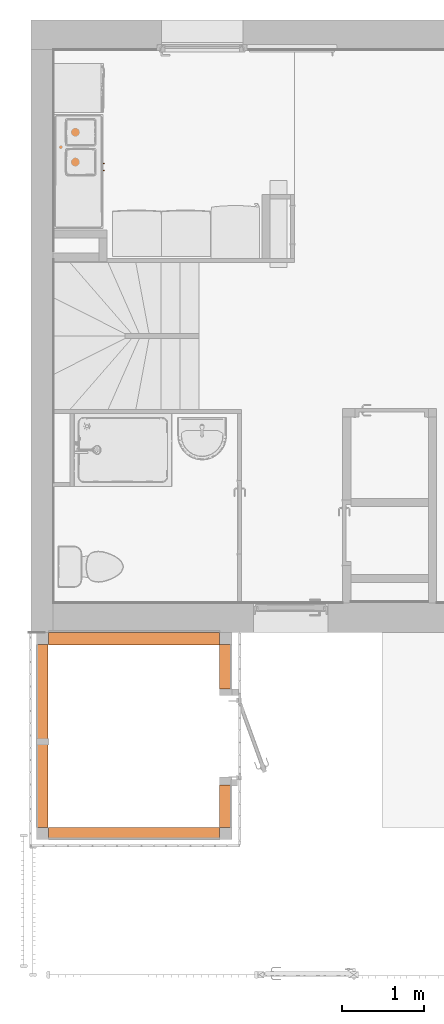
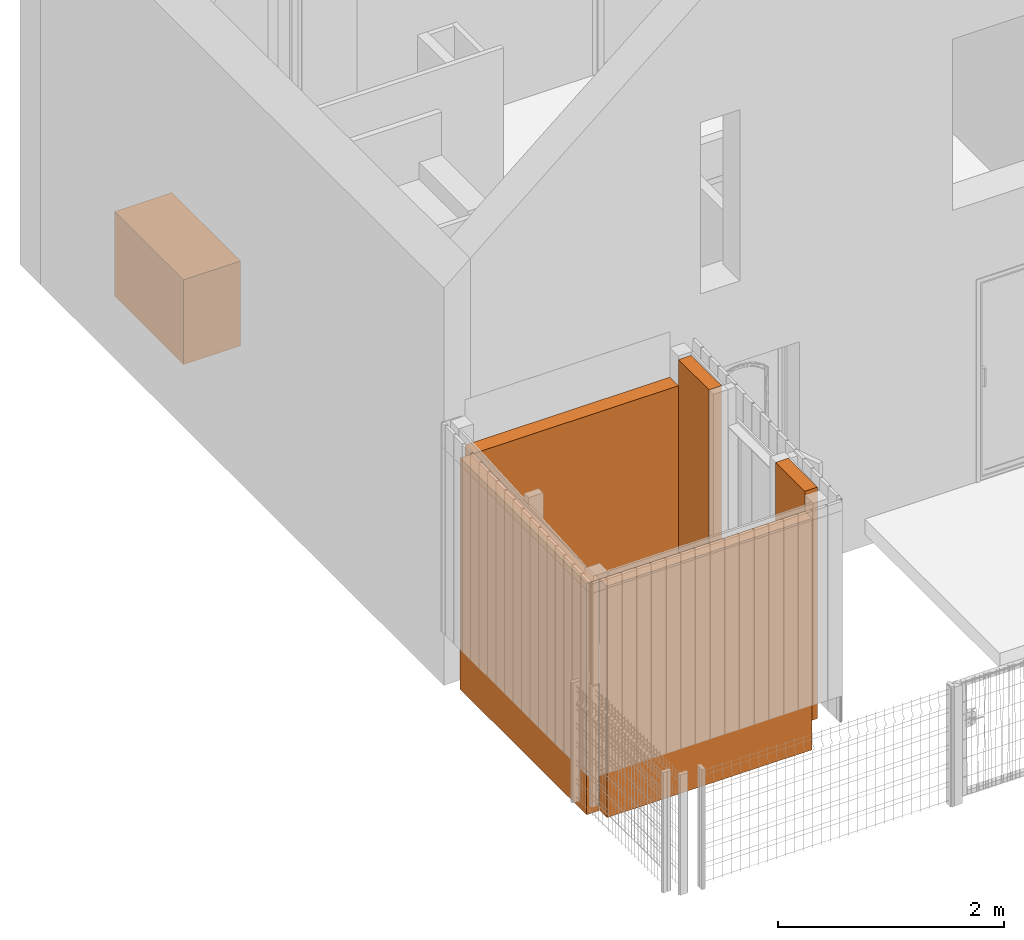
# One storey, part 80 of 81: 6 proxies.
"""IFC2X3 building model written with IfcOpenShell, lengths in metres."""

from ifc_helpers import new_model, entity, si_unit, converted_unit, derived_unit, direction, frame, frame_2d, origin, origin_2d_with_axis, place, context, subcontext, project, spatial, polyline, rectangle, outline, extrude, source, transform, mapped, material, material_list, type_object, type_shapes, element, save


model = new_model("IFC2X3")

# Units and contexts
model_context = context("Model", 3, precision=1e-05, world=origin(), true_north=direction((6.12303176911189e-17, 1.0)))
body_context = subcontext(model_context, "Body", "Model", "MODEL_VIEW")
ifc_project = project(units=[si_unit("LENGTHUNIT", "METRE"), si_unit("AREAUNIT", "SQUARE_METRE"), si_unit("VOLUMEUNIT", "CUBIC_METRE"), converted_unit("PLANEANGLEUNIT", "DEGREE", entity("IfcRatioMeasure", 0.0174532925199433), si_unit("PLANEANGLEUNIT", "RADIAN"), dimensions=[0, 0, 0, 0, 0, 0, 0]), si_unit("MASSUNIT", "GRAM", prefix="KILO"), derived_unit("MASSDENSITYUNIT", [(si_unit("MASSUNIT", "GRAM", prefix="KILO"), 1), (si_unit("LENGTHUNIT", "METRE"), -3)]), derived_unit("MOMENTOFINERTIAUNIT", [(si_unit("LENGTHUNIT", "METRE"), 4)]), si_unit("TIMEUNIT", "SECOND"), si_unit("FREQUENCYUNIT", "HERTZ"), si_unit("THERMODYNAMICTEMPERATUREUNIT", "DEGREE_CELSIUS"), derived_unit("THERMALTRANSMITTANCEUNIT", [(si_unit("MASSUNIT", "GRAM", prefix="KILO"), 1), (si_unit("THERMODYNAMICTEMPERATUREUNIT", "KELVIN"), -1), (si_unit("TIMEUNIT", "SECOND"), -3)]), derived_unit("VOLUMETRICFLOWRATEUNIT", [(si_unit("LENGTHUNIT", "METRE"), 3), (si_unit("TIMEUNIT", "SECOND"), -1)]), si_unit("ELECTRICCURRENTUNIT", "AMPERE"), si_unit("ELECTRICVOLTAGEUNIT", "VOLT"), si_unit("POWERUNIT", "WATT"), si_unit("FORCEUNIT", "NEWTON", prefix="KILO"), si_unit("ILLUMINANCEUNIT", "LUX"), si_unit("LUMINOUSFLUXUNIT", "LUMEN"), si_unit("LUMINOUSINTENSITYUNIT", "CANDELA"), derived_unit("USERDEFINED", [(si_unit("MASSUNIT", "GRAM", prefix="KILO"), -1), (si_unit("LENGTHUNIT", "METRE"), -2), (si_unit("TIMEUNIT", "SECOND"), 3), (si_unit("LUMINOUSFLUXUNIT", "LUMEN"), 1)]), derived_unit("LINEARVELOCITYUNIT", [(si_unit("LENGTHUNIT", "METRE"), 1), (si_unit("TIMEUNIT", "SECOND"), -1)]), si_unit("PRESSUREUNIT", "PASCAL"), derived_unit("USERDEFINED", [(si_unit("LENGTHUNIT", "METRE"), -2), (si_unit("MASSUNIT", "GRAM", prefix="KILO"), 1), (si_unit("TIMEUNIT", "SECOND"), -2)]), derived_unit("LINEARFORCEUNIT", [(si_unit("MASSUNIT", "GRAM", prefix="KILO"), 1), (si_unit("LENGTHUNIT", "METRE"), 1), (si_unit("TIMEUNIT", "SECOND"), -2), (si_unit("LENGTHUNIT", "METRE"), -1)]), derived_unit("PLANARFORCEUNIT", [(si_unit("MASSUNIT", "GRAM", prefix="KILO"), 1), (si_unit("LENGTHUNIT", "METRE"), 1), (si_unit("TIMEUNIT", "SECOND"), -2), (si_unit("LENGTHUNIT", "METRE"), -2)])], contexts=[model_context])

# Site, building, storey
site_placement = place(None, origin())
site = spatial("IfcSite", under=ifc_project, at=site_placement, Name="Surface", CompositionType="ELEMENT")
building_placement = place(site_placement, origin())
building = spatial("IfcBuilding", under=site, at=building_placement, CompositionType="ELEMENT")
storey_placement = place(building_placement, origin())
storey = spatial("IfcBuildingStorey", under=building, at=storey_placement, Name="01 RDC", CompositionType="ELEMENT", Elevation=-1.94916083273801e-14)

# Proxies
ifc_material_1 = material(Name="CabinetFinish")
ifc_material_2 = material(Name="Default metal")
ifc_material_3 = material(Name="EquipSpace")
ifc_material_list = material_list([ifc_material_1, ifc_material_2, ifc_material_3])
building_element_proxy_type_1 = type_object("IfcBuildingElementProxyType", Name="Meuble évier:Meuble évier", PredefinedType="NOTDEFINED", material=ifc_material_1)
shared_shape_1 = source(origin(), body_context, "Body", "SweptSolid", [
    extrude(rectangle(XDim=0.01905, YDim=1.2192, at=frame_2d((1.64798730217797e-17, 0.0), x_axis=(1.0, 0.0))), frame((0.0, -0.282575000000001, 0.673100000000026), z_axis=(0.0, 0.0, 1.0), x_axis=(0.0, 1.0, 0.0)), (0.0, 0.0, 1.0), 0.152400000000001),
    extrude(rectangle(XDim=0.0190499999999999, YDim=0.565149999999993, at=frame_2d((0.0, -2.77555756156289e-17), x_axis=(1.0, 0.0))), frame((-0.600075, 0.00952500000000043, 0.101600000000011)), (0.0, 0.0, 1.0), 0.723900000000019),
    extrude(rectangle(XDim=0.01905, YDim=0.565149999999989, at=frame_2d((3.38271077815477e-17, -2.77555756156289e-17), x_axis=(1.0, 0.0))), frame((0.600075, 0.00952499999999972, 0.101600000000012)), (0.0, 0.0, 1.0), 0.723900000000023),
    extrude(rectangle(XDim=0.01905, YDim=1.2192, at=frame_2d((-3.38271077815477e-17, 0.0), x_axis=(1.0, 0.0))), frame((0.0, -0.244474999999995, 0.0), z_axis=(0.0, 0.0, 1.0), x_axis=(0.0, 1.0, 0.0)), (0.0, 0.0, 1.0), 0.101600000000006),
    extrude(rectangle(XDim=0.0190500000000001, YDim=0.507999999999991, at=frame_2d((0.0, 2.77555756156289e-17), x_axis=(1.0, 0.0))), frame((-0.600075, 0.0190500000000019, 0.0)), (0.0, 0.0, 1.0), 0.1016),
    extrude(rectangle(XDim=0.01905, YDim=0.507999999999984, at=frame_2d((-6.76542155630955e-17, 0.0), x_axis=(1.0, 0.0))), frame((0.600075, 0.0190500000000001, 0.0)), (0.0, 0.0, 1.0), 0.101600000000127),
    extrude(rectangle(XDim=0.01905, YDim=1.2192, at=origin_2d_with_axis()), frame((0.0, 0.282574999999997, 0.0), z_axis=(0.0, 0.0, 1.0), x_axis=(0.0, 1.0, 0.0)), (0.0, 0.0, 1.0), 0.101600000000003),
    extrude(rectangle(XDim=1.18110000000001, YDim=0.546100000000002, at=frame_2d((1.66533453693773e-16, -6.38378239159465e-16), x_axis=(1.0, 0.0))), frame((0.0, 0.0, 0.101600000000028), z_axis=(0.0, 0.0, 1.0), x_axis=(-1.0, 0.0, 0.0)), (0.0, 0.0, 1.0), 0.0191166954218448),
    extrude(rectangle(XDim=0.01905, YDim=1.1811, at=origin_2d_with_axis()), frame((0.0, 0.282574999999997, 0.101600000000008), z_axis=(0.0, 0.0, 1.0), x_axis=(0.0, 1.0, 0.0)), (0.0, 0.0, 1.0), 0.704850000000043),
    extrude(outline(polyline([(-0.0222210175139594, -0.0476250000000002), (0.0158789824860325, -0.0476250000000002), (0.0158789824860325, -0.0349409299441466), (-0.0095369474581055, -0.0349409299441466), (-0.0095369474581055, 0.0349409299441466), (0.0158789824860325, 0.0349409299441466), (0.0158789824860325, 0.0476250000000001), (-0.0222210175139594, 0.0476250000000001), (-0.0222210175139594, -0.0476250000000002)])), frame((0.038099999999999, -0.307978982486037, 0.566221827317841), z_axis=(1.0, 0.0, 0.0), x_axis=(0.0, 1.0, 0.0)), (0.0, 0.0, 1.0), 0.0127),
    extrude(outline(polyline([(-0.0222210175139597, -0.0476250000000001), (0.0158789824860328, -0.0476250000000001), (0.0158789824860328, -0.0349409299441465), (-0.00953694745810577, -0.0349409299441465), (-0.00953694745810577, 0.0349409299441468), (0.0158789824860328, 0.0349409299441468), (0.0158789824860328, 0.0476250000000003), (-0.0222210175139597, 0.0476250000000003), (-0.0222210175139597, -0.0476250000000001)])), frame((-0.050799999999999, -0.307978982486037, 0.566221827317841), z_axis=(1.0, 0.0, 0.0), x_axis=(0.0, 1.0, 0.0)), (0.0, 0.0, 1.0), 0.0127),
    extrude(rectangle(XDim=0.5842, YDim=1.2192, at=frame_2d((3.60822483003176e-16, 0.12192), x_axis=(1.0, 0.0))), frame((-0.12192, 0.0, 0.0), z_axis=(0.0, 0.0, 1.0), x_axis=(0.0, -1.0, 0.0)), (0.0, 0.0, 1.0), 0.91439999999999),
    extrude(rectangle(XDim=1.016, YDim=0.420049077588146, at=origin_2d_with_axis()), frame((0.0, 0.0131745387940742, 0.80645), z_axis=(0.0, 0.0, 1.0), x_axis=(-1.0, 0.0, 0.0)), (0.0, 0.0, 1.0), 0.0190499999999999),
    extrude(rectangle(XDim=0.01905, YDim=0.609600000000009, at=frame_2d((1.64798730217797e-17, 0.0), x_axis=(1.0, 0.0))), frame((-0.304799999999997, -0.282575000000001, 0.101600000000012), z_axis=(0.0, 0.0, 1.0), x_axis=(0.0, 1.0, 0.0)), (0.0, 0.0, 1.0), 0.565150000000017),
    extrude(rectangle(XDim=0.01905, YDim=0.609600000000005, at=frame_2d((1.73472347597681e-17, -2.77555756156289e-17), x_axis=(1.0, 0.0))), frame((0.304799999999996, -0.282575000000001, 0.101600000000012), z_axis=(0.0, 0.0, 1.0), x_axis=(0.0, 1.0, 0.0)), (0.0, 0.0, 1.0), 0.565150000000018),
])
type_shapes(building_element_proxy_type_1, [shared_shape_1])
proxy_1_placement = place(storey_placement, frame((6.03866158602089, 2.00403904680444, -0.01), z_axis=(0.0, 0.0, 1.0), x_axis=(0.0, 1.0, 0.0)))
element("IfcBuildingElementProxy", 1, at=proxy_1_placement, inside=storey, type_object=building_element_proxy_type_1, material=ifc_material_list, Name="Meuble évier:Meuble évier", ObjectType="Meuble évier:Meuble évier", context=body_context, shape_type="MappedRepresentation", body=[
    mapped(shared_shape_1, transform((0.0, 0.0, 0.0), scale=1.0)),
])
ifc_material_4 = material(Name="Bois - Swiss Krono - OSB 3 - Panneau Anti-Termites 2500x1250x13mm")
building_element_proxy_type_2 = type_object("IfcBuildingElementProxyType", Name="Tiles_Swiss Krono_Placeholder:Tiles_Swiss Krono_Placeholder", PredefinedType="NOTDEFINED", material=ifc_material_4)
shared_shape_2 = source(origin(), body_context, "Body", "SweptSolid", [
    extrude(rectangle(XDim=2.5, YDim=2.235, at=origin_2d_with_axis()), frame((0.0, 0.0, 0.0), z_axis=(0.0, 0.0, 1.0), x_axis=(0.0, -1.0, 0.0)), (0.0, 0.0, 1.0), 0.130000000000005),
])
type_shapes(building_element_proxy_type_2, [shared_shape_2])
proxy_2_placement = place(storey_placement, frame((5.54656158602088, -4.96346095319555, 0.980493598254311), z_axis=(1.0, 0.0, 0.0), x_axis=(0.0, -1.0, 0.0)))
element("IfcBuildingElementProxy", 2, at=proxy_2_placement, inside=storey, type_object=building_element_proxy_type_2, material=ifc_material_4, Name="Tiles_Swiss Krono_Placeholder:Tiles_Swiss Krono_Placeholder", ObjectType="Tiles_Swiss Krono_Placeholder:Tiles_Swiss Krono_Placeholder", context=body_context, shape_type="MappedRepresentation", body=[
    mapped(shared_shape_2, transform((0.0, 0.0, 0.0), scale=1.0)),
])
building_element_proxy_type_3 = type_object("IfcBuildingElementProxyType", Name="Tiles_Swiss Krono_Placeholder:Tiles_Swiss Krono_Placeholder", PredefinedType="NOTDEFINED", material=ifc_material_4)
shared_shape_3 = source(origin(), body_context, "Body", "SweptSolid", [
    extrude(rectangle(XDim=2.5, YDim=0.539799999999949, at=origin_2d_with_axis()), frame((0.0, 0.0, 0.0), z_axis=(0.0, 0.0, 1.0), x_axis=(0.0, -1.0, 0.0)), (0.0, 0.0, 1.0), 0.129999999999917),
])
type_shapes(building_element_proxy_type_3, [shared_shape_3])
proxy_3_placement = place(storey_placement, frame((7.77656158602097, -4.11586095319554, 1.26139477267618), z_axis=(1.0, 0.0, 0.0), x_axis=(0.0, -1.0, 0.0)))
element("IfcBuildingElementProxy", 3, at=proxy_3_placement, inside=storey, type_object=building_element_proxy_type_3, material=ifc_material_4, Name="Tiles_Swiss Krono_Placeholder:Tiles_Swiss Krono_Placeholder", ObjectType="Tiles_Swiss Krono_Placeholder:Tiles_Swiss Krono_Placeholder", context=body_context, shape_type="MappedRepresentation", body=[
    mapped(shared_shape_3, transform((0.0, 0.0, 0.0), scale=1.0)),
])
building_element_proxy_type_4 = type_object("IfcBuildingElementProxyType", Name="Tiles_Swiss Krono_Placeholder:Tiles_Swiss Krono_Placeholder", PredefinedType="NOTDEFINED", material=ifc_material_4)
shared_shape_4 = source(origin(), body_context, "Body", "SweptSolid", [
    extrude(rectangle(XDim=2.5, YDim=0.129219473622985, at=origin_2d_with_axis()), frame((0.0, 0.0, 0.0), z_axis=(0.0, 0.0, 1.0), x_axis=(0.0, -1.0, 0.0)), (0.0, 0.0, 1.0), 2.095),
])
type_shapes(building_element_proxy_type_4, [shared_shape_4])
proxy_4_placement = place(storey_placement, frame((5.68156158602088, -6.14635121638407, 0.980493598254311), z_axis=(1.0, 0.0, 0.0), x_axis=(0.0, -1.0, 0.0)))
element("IfcBuildingElementProxy", 4, at=proxy_4_placement, inside=storey, type_object=building_element_proxy_type_4, material=ifc_material_4, Name="Tiles_Swiss Krono_Placeholder:Tiles_Swiss Krono_Placeholder", ObjectType="Tiles_Swiss Krono_Placeholder:Tiles_Swiss Krono_Placeholder", context=body_context, shape_type="MappedRepresentation", body=[
    mapped(shared_shape_4, transform((0.0, 0.0, 0.0), scale=1.0)),
])
building_element_proxy_type_5 = type_object("IfcBuildingElementProxyType", Name="Tiles_Swiss Krono_Placeholder:Tiles_Swiss Krono_Placeholder", PredefinedType="NOTDEFINED", material=ifc_material_4)
shared_shape_5 = source(origin(), body_context, "Body", "SweptSolid", [
    extrude(rectangle(XDim=2.5, YDim=0.515200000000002, at=origin_2d_with_axis()), frame((0.0, 0.0, 0.0), z_axis=(0.0, 0.0, 1.0), x_axis=(0.0, -1.0, 0.0)), (0.0, 0.0, 1.0), 0.129999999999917),
])
type_shapes(building_element_proxy_type_5, [shared_shape_5])
proxy_5_placement = place(storey_placement, frame((7.77656158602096, -5.82336095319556, 1.19411589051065), z_axis=(1.0, 0.0, 0.0), x_axis=(0.0, -1.0, 0.0)))
element("IfcBuildingElementProxy", 5, at=proxy_5_placement, inside=storey, type_object=building_element_proxy_type_5, material=ifc_material_4, Name="Tiles_Swiss Krono_Placeholder:Tiles_Swiss Krono_Placeholder", ObjectType="Tiles_Swiss Krono_Placeholder:Tiles_Swiss Krono_Placeholder", context=body_context, shape_type="MappedRepresentation", body=[
    mapped(shared_shape_5, transform((0.0, 0.0, 0.0), scale=1.0)),
])
building_element_proxy_type_6 = type_object("IfcBuildingElementProxyType", Name="Tiles_Swiss Krono_Placeholder:Tiles_Swiss Krono_Placeholder", PredefinedType="NOTDEFINED", material=ifc_material_4)
shared_shape_6 = source(origin(), body_context, "Body", "SweptSolid", [
    extrude(rectangle(XDim=2.5, YDim=0.152500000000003, at=origin_2d_with_axis()), frame((0.0, 0.0, 0.0), z_axis=(0.0, 0.0, 1.0), x_axis=(0.0, -1.0, 0.0)), (0.0, 0.0, 1.0), 2.095),
])
type_shapes(building_element_proxy_type_6, [shared_shape_6])
proxy_6_placement = place(storey_placement, frame((5.68156158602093, -3.77221095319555, 0.980493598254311), z_axis=(1.0, 0.0, 0.0), x_axis=(0.0, -1.0, 0.0)))
element("IfcBuildingElementProxy", 6, at=proxy_6_placement, inside=storey, type_object=building_element_proxy_type_6, material=ifc_material_4, Name="Tiles_Swiss Krono_Placeholder:Tiles_Swiss Krono_Placeholder", ObjectType="Tiles_Swiss Krono_Placeholder:Tiles_Swiss Krono_Placeholder", context=body_context, shape_type="MappedRepresentation", body=[
    mapped(shared_shape_6, transform((0.0, 0.0, 0.0), scale=1.0)),
])

save(model, "model.ifc")
